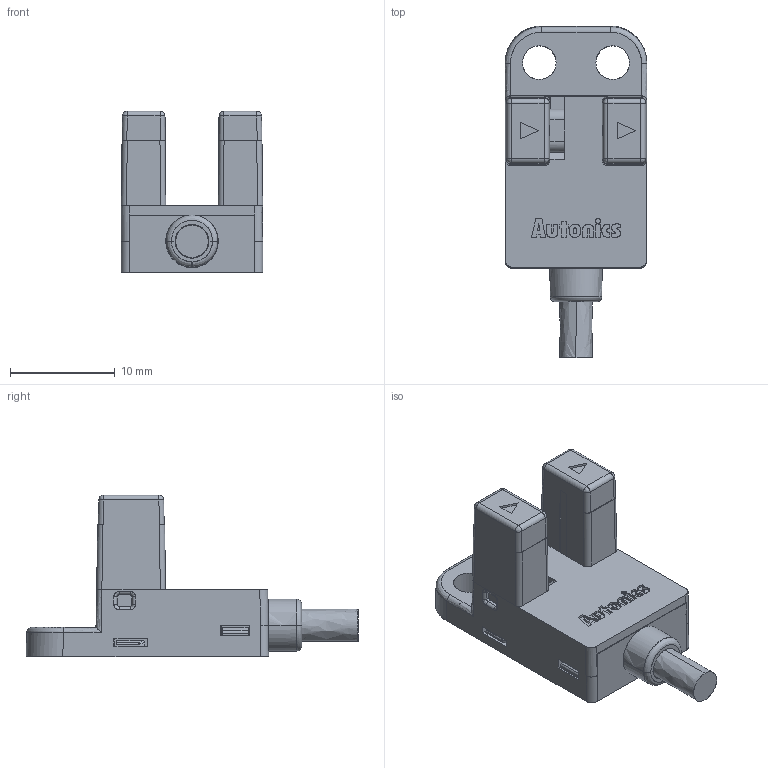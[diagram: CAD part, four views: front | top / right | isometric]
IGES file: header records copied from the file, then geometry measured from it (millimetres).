
Start section: SolidWorks IGES file using analytic representation for surfaces
Bounding box: 13.5 x 31.65 x 15.4 mm (x, y, z)
Surface area: 1628.4 mm2 (no closed solid volume)
Topology: 0 solids, 0 shells, 320 faces, 2762 edges, 2753 vertices
Faces by surface type: bspline 224, revolution 96
